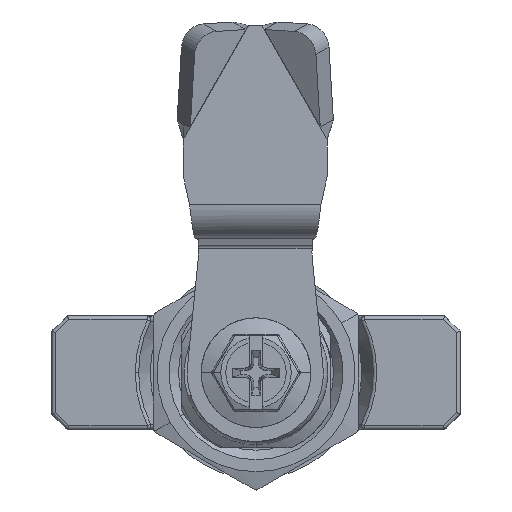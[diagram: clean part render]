
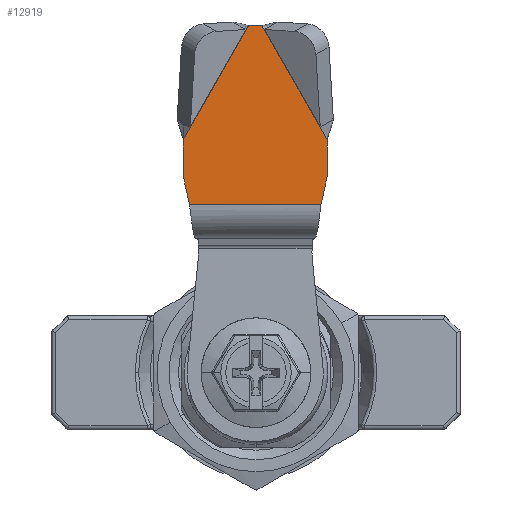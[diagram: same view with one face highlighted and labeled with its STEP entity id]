
A CAD part, front view. The second image highlights one B-rep face of the part: STEP entity #12919.
In plain terms, the highlighted planar face has unit normal (0, -1, 0) as drawn and (0, 0, -1) by its records, which use the part's own axes.
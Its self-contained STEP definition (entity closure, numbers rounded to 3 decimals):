
#374 = CARTESIAN_POINT ( 'NONE',  ( -20.56, 15.404, -20. ) ) ;
#1800 = VECTOR ( 'NONE', #13010, 1000. ) ;
#2775 = VERTEX_POINT ( 'NONE', #20315 ) ;
#3322 = LINE ( 'NONE', #26339, #32073 ) ;
#3451 = LINE ( 'NONE', #374, #11682 ) ;
#4517 = VECTOR ( 'NONE', #38839, 1000. ) ;
#6809 = FACE_OUTER_BOUND ( 'NONE', #39609, .T. ) ;
#7406 = CARTESIAN_POINT ( 'NONE',  ( -26., -9.5, -20. ) ) ;
#7844 = DIRECTION ( 'NONE',  ( 0.977, 0.214, 0. ) ) ;
#8206 = CARTESIAN_POINT ( 'NONE',  ( -46., 9.5, -20. ) ) ;
#9202 = ORIENTED_EDGE ( 'NONE', *, *, #24648, .F. ) ;
#9297 = CARTESIAN_POINT ( 'NONE',  ( -2.9, -15.5, -20. ) ) ;
#10774 = DIRECTION ( 'NONE',  ( -0.977, 0.214, 0. ) ) ;
#10916 = CARTESIAN_POINT ( 'NONE',  ( -46., -0.867, -20. ) ) ;
#11056 = VECTOR ( 'NONE', #32232, 1000. ) ;
#11682 = VECTOR ( 'NONE', #17779, 1000. ) ;
#11723 = DIRECTION ( 'NONE',  ( 0., -1., 0. ) ) ;
#12154 = VERTEX_POINT ( 'NONE', #28645 ) ;
#12800 = VERTEX_POINT ( 'NONE', #16526 ) ;
#12919 = ADVANCED_FACE ( 'NONE', ( #6809 ), #36866, .F. ) ;
#13010 = DIRECTION ( 'NONE',  ( 1., 0., 0. ) ) ;
#13132 = ORIENTED_EDGE ( 'NONE', *, *, #31227, .F. ) ;
#13728 = ORIENTED_EDGE ( 'NONE', *, *, #26606, .F. ) ;
#14903 = VERTEX_POINT ( 'NONE', #40877 ) ;
#14917 = LINE ( 'NONE', #42299, #4517 ) ;
#15629 = ORIENTED_EDGE ( 'NONE', *, *, #22367, .T. ) ;
#15771 = CARTESIAN_POINT ( 'NONE',  ( -46., -9.5, -20. ) ) ;
#16526 = CARTESIAN_POINT ( 'NONE',  ( -30.892, -9.5, -20. ) ) ;
#17035 = LINE ( 'NONE', #34886, #25087 ) ;
#17779 = DIRECTION ( 'NONE',  ( -0.868, -0.496, 0. ) ) ;
#19795 = DIRECTION ( 'NONE',  ( 0., 0., 1. ) ) ;
#20315 = CARTESIAN_POINT ( 'NONE',  ( -22.315, 8.693, -20. ) ) ;
#21124 = CARTESIAN_POINT ( 'NONE',  ( -46., 0.867, -20. ) ) ;
#21765 = EDGE_CURVE ( 'NONE', #12800, #25856, #29476, .T. ) ;
#21854 = CARTESIAN_POINT ( 'NONE',  ( -30.892, 9.5, -20. ) ) ;
#21881 = CARTESIAN_POINT ( 'NONE',  ( -26., 9.5, -20. ) ) ;
#22367 = EDGE_CURVE ( 'NONE', #12800, #40968, #14917, .T. ) ;
#24053 = EDGE_CURVE ( 'NONE', #29291, #40968, #36480, .T. ) ;
#24111 = ORIENTED_EDGE ( 'NONE', *, *, #30124, .F. ) ;
#24648 = EDGE_CURVE ( 'NONE', #43528, #29291, #3451, .T. ) ;
#25087 = VECTOR ( 'NONE', #10774, 1000. ) ;
#25856 = VERTEX_POINT ( 'NONE', #7406 ) ;
#26339 = CARTESIAN_POINT ( 'NONE',  ( -22.315, -15.5, -20. ) ) ;
#26606 = EDGE_CURVE ( 'NONE', #12154, #43528, #39630, .T. ) ;
#28264 = AXIS2_PLACEMENT_3D ( 'NONE', #9297, #19795, #43789 ) ;
#28273 = VECTOR ( 'NONE', #7844, 1000. ) ;
#28645 = CARTESIAN_POINT ( 'NONE',  ( -26., 9.5, -20. ) ) ;
#28660 = ORIENTED_EDGE ( 'NONE', *, *, #24053, .F. ) ;
#29057 = ORIENTED_EDGE ( 'NONE', *, *, #21765, .F. ) ;
#29291 = VERTEX_POINT ( 'NONE', #21124 ) ;
#29367 = LINE ( 'NONE', #32015, #28273 ) ;
#29476 = LINE ( 'NONE', #15771, #1800 ) ;
#29814 = DIRECTION ( 'NONE',  ( 0., 1., 0. ) ) ;
#30124 = EDGE_CURVE ( 'NONE', #2775, #12154, #17035, .T. ) ;
#30378 = EDGE_CURVE ( 'NONE', #14903, #2775, #3322, .T. ) ;
#31227 = EDGE_CURVE ( 'NONE', #25856, #14903, #29367, .T. ) ;
#32015 = CARTESIAN_POINT ( 'NONE',  ( -26., -9.5, -20. ) ) ;
#32073 = VECTOR ( 'NONE', #29814, 1000. ) ;
#32232 = DIRECTION ( 'NONE',  ( -1., 0., 0. ) ) ;
#34886 = CARTESIAN_POINT ( 'NONE',  ( -17.711, 7.685, -20. ) ) ;
#36480 = LINE ( 'NONE', #8206, #44529 ) ;
#36866 = PLANE ( 'NONE',  #28264 ) ;
#38839 = DIRECTION ( 'NONE',  ( -0.868, 0.496, 0. ) ) ;
#39063 = ORIENTED_EDGE ( 'NONE', *, *, #30378, .F. ) ;
#39609 = EDGE_LOOP ( 'NONE', ( #29057, #15629, #28660, #9202, #13728, #24111, #39063, #13132 ) ) ;
#39630 = LINE ( 'NONE', #21881, #11056 ) ;
#40877 = CARTESIAN_POINT ( 'NONE',  ( -22.315, -8.693, -20. ) ) ;
#40968 = VERTEX_POINT ( 'NONE', #10916 ) ;
#42299 = CARTESIAN_POINT ( 'NONE',  ( -7.206, -23.035, -20. ) ) ;
#43528 = VERTEX_POINT ( 'NONE', #21854 ) ;
#43789 = DIRECTION ( 'NONE',  ( 1., 0., 0. ) ) ;
#44529 = VECTOR ( 'NONE', #11723, 1000. ) ;
